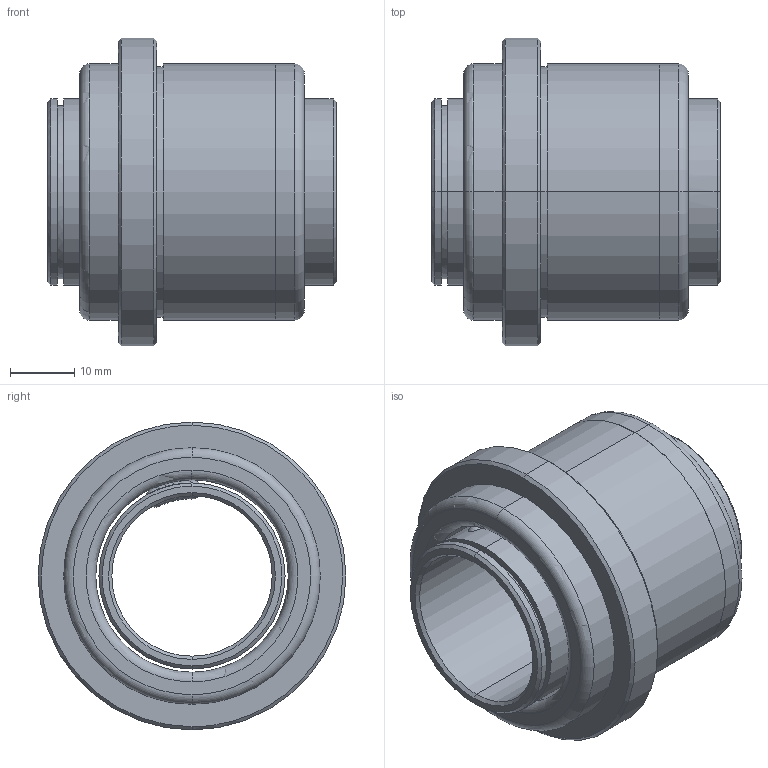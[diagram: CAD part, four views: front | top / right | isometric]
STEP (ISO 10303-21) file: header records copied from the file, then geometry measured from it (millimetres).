
FILE_DESCRIPTION(('CATIA V5 STEP Exchange'),'2;1');
FILE_NAME('C:\Users\Utente\Desktop\IO LAVORO\3D X SITO CF\X SITO\732\732-24.stp','2021-01-10T19:29:45+00:00',('none'),('none'),'CATIA Version 5 Release 20 GA (IN-10)','CATIA V5 STEP AP203','none');
FILE_SCHEMA(('CONFIG_CONTROL_DESIGN'));
Length unit declared in the file: millimetre
Products named in the file (1): 732-24
Assembly tree (2 placements, depth 2):
  732-24
    #58
    #1297
Bounding box: 45 x 48 x 48 mm (x, y, z)
Volume: 29750.1 mm3; surface area: 17854.3 mm2
Topology: 2 solids, 2 shells, 74 faces, 206 edges, 152 vertices
Faces by surface type: sphere 24, cylinder 20, cone 12, plane 10, torus 8
Entity records: 2955 total; most frequent: CARTESIAN_POINT 1020, ORIENTED_EDGE 412, DIRECTION 310, EDGE_CURVE 206, AXIS2_PLACEMENT_3D 198, VERTEX_POINT 152, CIRCLE 120, EDGE_LOOP 94
